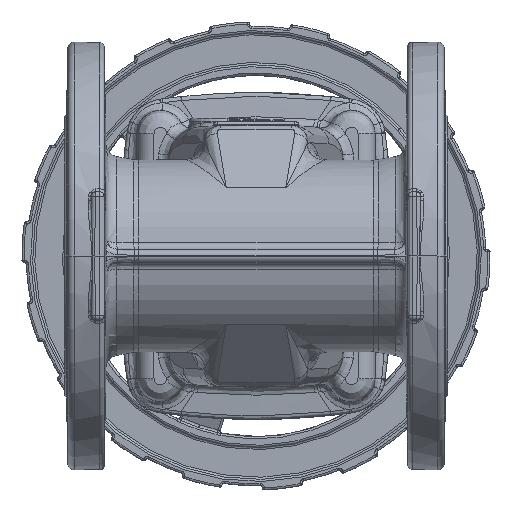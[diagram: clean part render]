
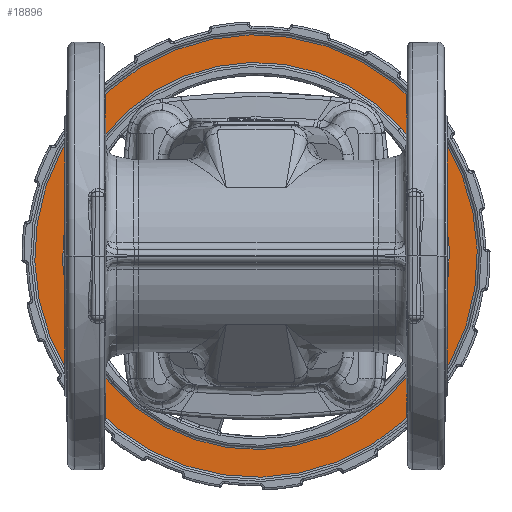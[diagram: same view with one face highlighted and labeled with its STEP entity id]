
A CAD part, front view. The second image highlights one B-rep face of the part: STEP entity #18896.
In plain terms, the highlighted planar face has unit normal (0, -1, 0).
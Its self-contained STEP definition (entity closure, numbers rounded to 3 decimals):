
#912 = DIRECTION ( 'NONE',  ( 0., 0., 1. ) ) ;
#1911 = CARTESIAN_POINT ( 'NONE',  ( 0., 24.941, -91. ) ) ;
#2446 = ORIENTED_EDGE ( 'NONE', *, *, #96040, .T. ) ;
#3169 = VERTEX_POINT ( 'NONE', #1911 ) ;
#3399 = EDGE_LOOP ( 'NONE', ( #87737, #77998 ) ) ;
#5043 = DIRECTION ( 'NONE',  ( 0., 1., 0. ) ) ;
#11247 = DIRECTION ( 'NONE',  ( 0., 1., 0. ) ) ;
#14869 = CIRCLE ( 'NONE', #63111, 104. ) ;
#18554 = PLANE ( 'NONE',  #80537 ) ;
#18896 = ADVANCED_FACE ( 'NONE', ( #19608, #51314 ), #18554, .F. ) ;
#19608 = FACE_BOUND ( 'NONE', #3399, .T. ) ;
#23719 = EDGE_LOOP ( 'NONE', ( #2446, #38539 ) ) ;
#38539 = ORIENTED_EDGE ( 'NONE', *, *, #68128, .T. ) ;
#41424 = CIRCLE ( 'NONE', #65418, 104. ) ;
#44650 = CARTESIAN_POINT ( 'NONE',  ( 0., 24.941, 91. ) ) ;
#45333 = DIRECTION ( 'NONE',  ( 0., 0., 1. ) ) ;
#46059 = CARTESIAN_POINT ( 'NONE',  ( 0., 24.941, 104. ) ) ;
#51314 = FACE_OUTER_BOUND ( 'NONE', #23719, .T. ) ;
#51671 = VERTEX_POINT ( 'NONE', #44650 ) ;
#54384 = CIRCLE ( 'NONE', #93891, 91. ) ;
#54947 = EDGE_CURVE ( 'NONE', #3169, #51671, #54384, .T. ) ;
#61029 = CARTESIAN_POINT ( 'NONE',  ( 0., 24.941, 0. ) ) ;
#61467 = EDGE_CURVE ( 'NONE', #51671, #3169, #64046, .T. ) ;
#63111 = AXIS2_PLACEMENT_3D ( 'NONE', #61029, #83130, #99793 ) ;
#64046 = CIRCLE ( 'NONE', #86356, 91. ) ;
#65418 = AXIS2_PLACEMENT_3D ( 'NONE', #91162, #92194, #912 ) ;
#68128 = EDGE_CURVE ( 'NONE', #100049, #70011, #41424, .T. ) ;
#70011 = VERTEX_POINT ( 'NONE', #46059 ) ;
#76042 = CARTESIAN_POINT ( 'NONE',  ( 90., 24.941, 0. ) ) ;
#77086 = DIRECTION ( 'NONE',  ( 0., 1., 0. ) ) ;
#77998 = ORIENTED_EDGE ( 'NONE', *, *, #54947, .T. ) ;
#78649 = CARTESIAN_POINT ( 'NONE',  ( 0., 24.941, 0. ) ) ;
#80537 = AXIS2_PLACEMENT_3D ( 'NONE', #76042, #77086, #99706 ) ;
#83130 = DIRECTION ( 'NONE',  ( 0., -1., 0. ) ) ;
#86356 = AXIS2_PLACEMENT_3D ( 'NONE', #78649, #5043, #45333 ) ;
#87737 = ORIENTED_EDGE ( 'NONE', *, *, #61467, .T. ) ;
#91162 = CARTESIAN_POINT ( 'NONE',  ( 0., 24.941, 0. ) ) ;
#92194 = DIRECTION ( 'NONE',  ( 0., -1., 0. ) ) ;
#92383 = DIRECTION ( 'NONE',  ( 0., 0., 1. ) ) ;
#92906 = CARTESIAN_POINT ( 'NONE',  ( 0., 24.941, 0. ) ) ;
#93105 = CARTESIAN_POINT ( 'NONE',  ( 0., 24.941, -104. ) ) ;
#93891 = AXIS2_PLACEMENT_3D ( 'NONE', #92906, #11247, #92383 ) ;
#96040 = EDGE_CURVE ( 'NONE', #70011, #100049, #14869, .T. ) ;
#99706 = DIRECTION ( 'NONE',  ( 0., 0., 1. ) ) ;
#99793 = DIRECTION ( 'NONE',  ( 0., 0., 1. ) ) ;
#100049 = VERTEX_POINT ( 'NONE', #93105 ) ;
